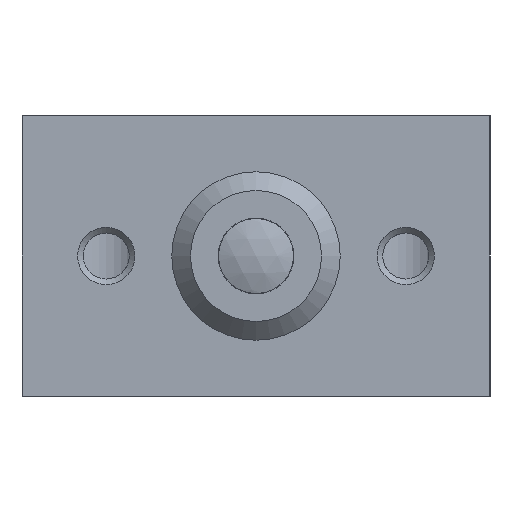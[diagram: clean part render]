
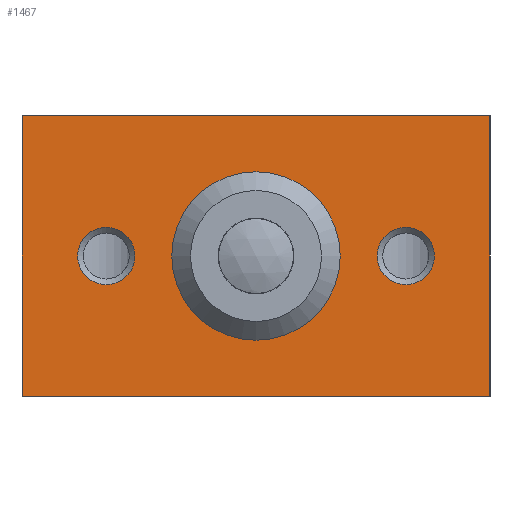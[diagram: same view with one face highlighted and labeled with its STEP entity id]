
A CAD part, left-side view. The second image highlights one B-rep face of the part: STEP entity #1467.
In plain terms, the highlighted planar face has unit normal (-1, 0, 0).
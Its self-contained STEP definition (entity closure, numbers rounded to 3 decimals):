
#65=LINE('',#2747,#139);
#77=LINE('',#2878,#151);
#86=LINE('',#2959,#160);
#87=LINE('',#2960,#161);
#139=VECTOR('',#2322,1000.);
#151=VECTOR('',#2340,1000.);
#160=VECTOR('',#2375,1000.);
#161=VECTOR('',#2376,1000.);
#242=PLANE('',#2129);
#348=ORIENTED_EDGE('',*,*,#686,.T.);
#349=ORIENTED_EDGE('',*,*,#687,.T.);
#350=ORIENTED_EDGE('',*,*,#688,.T.);
#351=ORIENTED_EDGE('',*,*,#648,.T.);
#352=ORIENTED_EDGE('',*,*,#689,.T.);
#353=ORIENTED_EDGE('',*,*,#666,.F.);
#354=ORIENTED_EDGE('',*,*,#690,.F.);
#648=EDGE_CURVE('',#825,#826,#65,.T.);
#666=EDGE_CURVE('',#843,#844,#77,.T.);
#686=EDGE_CURVE('',#863,#863,#971,.F.);
#687=EDGE_CURVE('',#864,#864,#972,.F.);
#688=EDGE_CURVE('',#865,#865,#973,.F.);
#689=EDGE_CURVE('',#826,#844,#86,.T.);
#690=EDGE_CURVE('',#825,#843,#87,.T.);
#825=VERTEX_POINT('',#2748);
#826=VERTEX_POINT('',#2749);
#843=VERTEX_POINT('',#2879);
#844=VERTEX_POINT('',#2880);
#863=VERTEX_POINT('',#2954);
#864=VERTEX_POINT('',#2956);
#865=VERTEX_POINT('',#2958);
#971=CIRCLE('',#2130,4.088);
#972=CIRCLE('',#2131,1.53);
#973=CIRCLE('',#2132,1.53);
#1059=EDGE_LOOP('',(#348));
#1060=EDGE_LOOP('',(#349));
#1061=EDGE_LOOP('',(#350));
#1062=EDGE_LOOP('',(#351,#352,#353,#354));
#1257=FACE_BOUND('',#1059,.T.);
#1258=FACE_BOUND('',#1060,.T.);
#1259=FACE_BOUND('',#1061,.T.);
#1260=FACE_BOUND('',#1062,.T.);
#1467=ADVANCED_FACE('',(#1257,#1258,#1259,#1260),#242,.T.);
#2129=AXIS2_PLACEMENT_3D('',#2952,#2367,#2368);
#2130=AXIS2_PLACEMENT_3D('',#2953,#2369,#2370);
#2131=AXIS2_PLACEMENT_3D('',#2955,#2371,#2372);
#2132=AXIS2_PLACEMENT_3D('',#2957,#2373,#2374);
#2322=DIRECTION('',(0.,-1.,0.));
#2340=DIRECTION('',(0.,-1.,0.));
#2367=DIRECTION('',(-1.,0.,0.));
#2368=DIRECTION('',(0.,-1.,0.));
#2369=DIRECTION('',(-1.,0.,0.));
#2370=DIRECTION('',(0.,0.,1.));
#2371=DIRECTION('',(-1.,0.,0.));
#2372=DIRECTION('',(0.,0.,1.));
#2373=DIRECTION('',(-1.,0.,0.));
#2374=DIRECTION('',(0.,0.,1.));
#2375=DIRECTION('',(0.,0.,1.));
#2376=DIRECTION('',(0.,0.,1.));
#2747=CARTESIAN_POINT('',(-32.,12.5,-7.5));
#2748=CARTESIAN_POINT('',(-32.,12.5,-7.5));
#2749=CARTESIAN_POINT('',(-32.,-12.5,-7.5));
#2878=CARTESIAN_POINT('',(-32.,12.5,7.5));
#2879=CARTESIAN_POINT('',(-32.,12.5,7.5));
#2880=CARTESIAN_POINT('',(-32.,-12.5,7.5));
#2952=CARTESIAN_POINT('',(-32.,12.5,-7.5));
#2953=CARTESIAN_POINT('',(-32.,0.,0.));
#2954=CARTESIAN_POINT('',(-32.,0.,4.088));
#2955=CARTESIAN_POINT('',(-32.,-8.,0.));
#2956=CARTESIAN_POINT('',(-32.,-8.,1.53));
#2957=CARTESIAN_POINT('',(-32.,8.,0.));
#2958=CARTESIAN_POINT('',(-32.,8.,1.53));
#2959=CARTESIAN_POINT('',(-32.,-12.5,-7.5));
#2960=CARTESIAN_POINT('',(-32.,12.5,-7.5));
